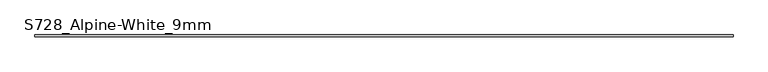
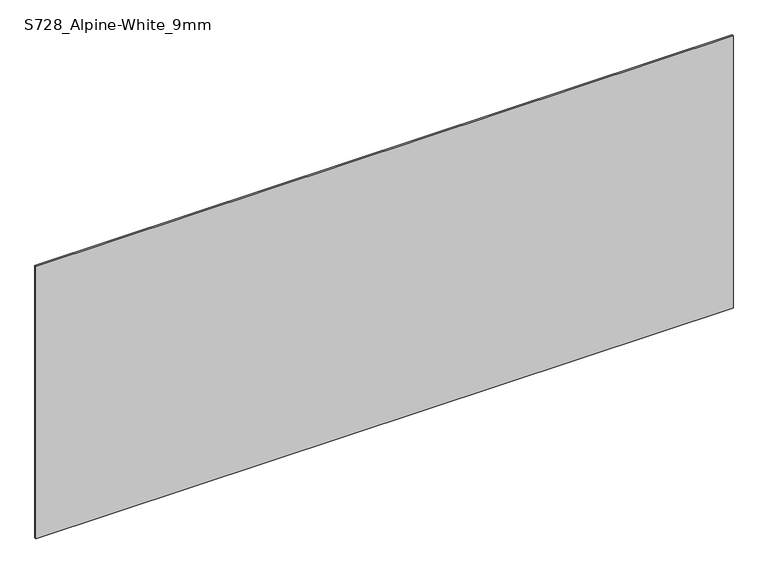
"""IFC4 building model written with IfcOpenShell, lengths in millimetres: plate geometry, Curtain-Panels_Outdoor-Material_HI-MACS_Solids : S728_Alpine-White_9mm."""

from ifc_helpers import new_model, si_unit, origin, origin_with_axes, place, context, project, spatial, polyline, outline, extrude, source, transform, mapped, element, save


def s728_alpine_white_9mm_deeea01b(model_context):
    return source(origin(), model_context, "Body", "SweptSolid", [
        extrude(outline(polyline([(1840.0, 4.5), (1840.0, -4.5), (-1840.0, -4.5), (-1840.0, 4.5), (1840.0, 4.5)])), origin_with_axes(), (0.0, 0.0, 1.0), 1520.0),
    ])


if __name__ == "__main__":
    model = new_model("IFC4")
    model_context = context("Model", 3, world=origin())
    ifc_project = project(units=[si_unit("LENGTHUNIT", "METRE", prefix="MILLI")], contexts=[model_context])
    site = spatial("IfcSite", under=ifc_project)
    building = spatial("IfcBuilding", under=site)
    placement = place(None, origin())
    s728_alpine_white_9mm_shape = s728_alpine_white_9mm_deeea01b(model_context)
    element("IfcPlate", 1, ObjectType="Curtain-Panels_Outdoor-Material_HI-MACS_Solids : S728_Alpine-White_9mm", at=placement, inside=building, context=model_context, shape_type="MappedRepresentation", body=[
        mapped(s728_alpine_white_9mm_shape, transform((0.0, 0.0, 0.0), x_axis=(1.0, 0.0, 0.0), y_axis=(0.0, 1.0, 0.0), z_axis=(0.0, 0.0, 1.0))),
    ])
    save(model, "model.ifc")
